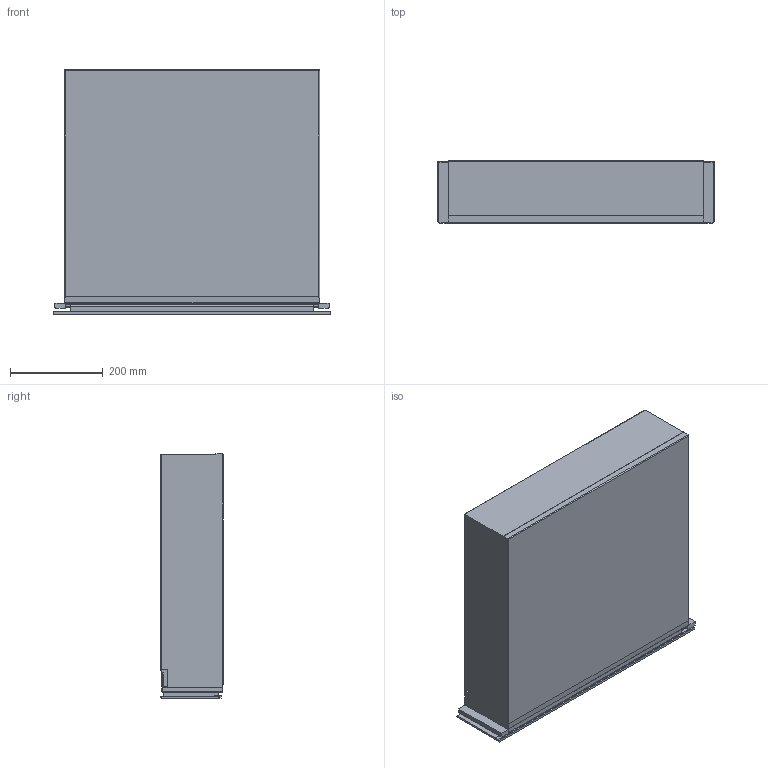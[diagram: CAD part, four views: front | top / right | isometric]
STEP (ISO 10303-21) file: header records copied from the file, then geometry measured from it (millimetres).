
FILE_DESCRIPTION (( 'STEP AP214' ), '1' );
FILE_NAME ('DSN.STEP', '2017-12-01T09:43:54', ( '' ), ( '' ), 'SwSTEP 2.0', 'SolidWorks 2016', '' );
FILE_SCHEMA (( 'AUTOMOTIVE_DESIGN' ));
Length unit declared in the file: millimetre
Products named in the file (1): DSN
Bounding box: 597 x 135 x 527.8 mm (x, y, z)
Volume: 38824294.7 mm3; surface area: 1230726.5 mm2
Topology: 6 solids, 6 shells, 101 faces, 251 edges, 162 vertices
Faces by surface type: plane 58, cylinder 39, torus 4
Entity records: 3057 total; most frequent: CARTESIAN_POINT 599, ORIENTED_EDGE 502, DIRECTION 478, EDGE_CURVE 251, VECTOR 180, LINE 180, VERTEX_POINT 162, AXIS2_PLACEMENT_3D 149
